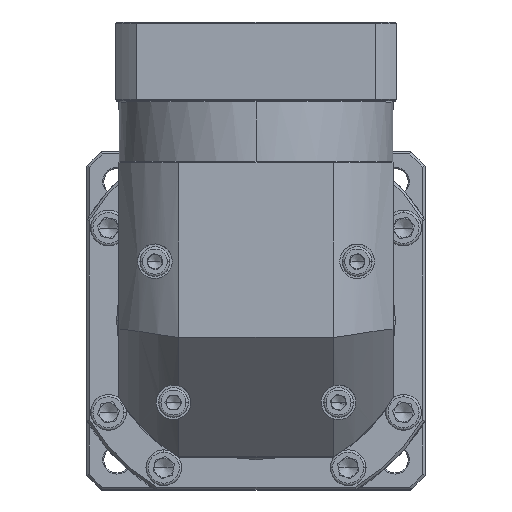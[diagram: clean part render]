
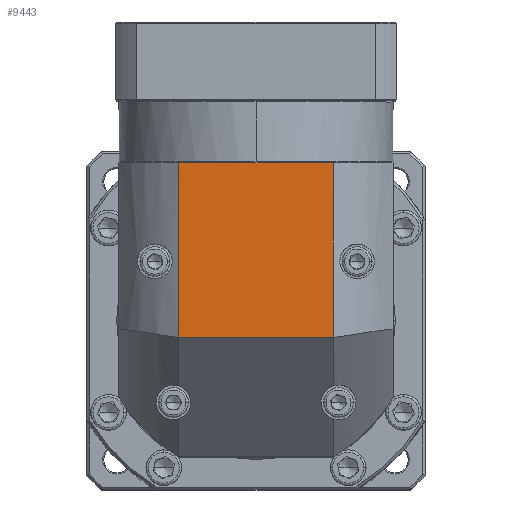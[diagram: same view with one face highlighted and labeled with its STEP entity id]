
A CAD part, top view. The second image highlights one B-rep face of the part: STEP entity #9443.
In plain terms, the highlighted planar face has unit normal (0, 0, 1).
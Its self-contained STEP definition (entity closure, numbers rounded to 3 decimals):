
#1939 = ORIENTED_EDGE ( 'NONE', *, *, #61167, .F. ) ;
#5870 = EDGE_CURVE ( 'NONE', #17652, #53257, #95511, .T. ) ;
#7026 = FACE_OUTER_BOUND ( 'NONE', #79718, .T. ) ;
#7435 = VECTOR ( 'NONE', #38932, 1000. ) ;
#8050 = VERTEX_POINT ( 'NONE', #89713 ) ;
#9443 = ADVANCED_FACE ( 'NONE', ( #7026 ), #141157, .F. ) ;
#14971 = CARTESIAN_POINT ( 'NONE',  ( -214.696, 50.236, 87.256 ) ) ;
#17652 = VERTEX_POINT ( 'NONE', #120139 ) ;
#20208 = VERTEX_POINT ( 'NONE', #24791 ) ;
#21094 = AXIS2_PLACEMENT_3D ( 'NONE', #39119, #118747, #72462 ) ;
#24791 = CARTESIAN_POINT ( 'NONE',  ( -189.596, 50.236, 87.256 ) ) ;
#33196 = VECTOR ( 'NONE', #63759, 1000. ) ;
#38932 = DIRECTION ( 'NONE',  ( -1., 0., 0. ) ) ;
#39119 = CARTESIAN_POINT ( 'NONE',  ( -157.196, 57.736, 87.256 ) ) ;
#42359 = CARTESIAN_POINT ( 'NONE',  ( -124.796, 0.236, 87.256 ) ) ;
#53257 = VERTEX_POINT ( 'NONE', #120044 ) ;
#54251 = LINE ( 'NONE', #94013, #139777 ) ;
#61167 = EDGE_CURVE ( 'NONE', #20208, #8050, #54251, .T. ) ;
#63070 = ORIENTED_EDGE ( 'NONE', *, *, #81853, .F. ) ;
#63759 = DIRECTION ( 'NONE',  ( 0., -1., 0. ) ) ;
#72462 = DIRECTION ( 'NONE',  ( 1., 0., 0. ) ) ;
#74214 = EDGE_CURVE ( 'NONE', #8050, #17652, #112189, .T. ) ;
#74740 = VECTOR ( 'NONE', #91752, 1000. ) ;
#77667 = ORIENTED_EDGE ( 'NONE', *, *, #74214, .F. ) ;
#79718 = EDGE_LOOP ( 'NONE', ( #1939, #63070, #90125, #77667 ) ) ;
#81853 = EDGE_CURVE ( 'NONE', #53257, #20208, #103636, .T. ) ;
#89713 = CARTESIAN_POINT ( 'NONE',  ( -189.596, 123.636, 87.256 ) ) ;
#90125 = ORIENTED_EDGE ( 'NONE', *, *, #5870, .F. ) ;
#91752 = DIRECTION ( 'NONE',  ( 1., 0., 0. ) ) ;
#94013 = CARTESIAN_POINT ( 'NONE',  ( -189.596, 0.236, 87.256 ) ) ;
#95511 = LINE ( 'NONE', #42359, #33196 ) ;
#103636 = LINE ( 'NONE', #14971, #7435 ) ;
#112189 = LINE ( 'NONE', #116126, #74740 ) ;
#116126 = CARTESIAN_POINT ( 'NONE',  ( -214.696, 123.636, 87.256 ) ) ;
#118747 = DIRECTION ( 'NONE',  ( 0., 0., -1. ) ) ;
#120044 = CARTESIAN_POINT ( 'NONE',  ( -124.796, 50.236, 87.256 ) ) ;
#120139 = CARTESIAN_POINT ( 'NONE',  ( -124.796, 123.636, 87.256 ) ) ;
#128415 = DIRECTION ( 'NONE',  ( 0., 1., 0. ) ) ;
#139777 = VECTOR ( 'NONE', #128415, 1000. ) ;
#141157 = PLANE ( 'NONE',  #21094 ) ;
